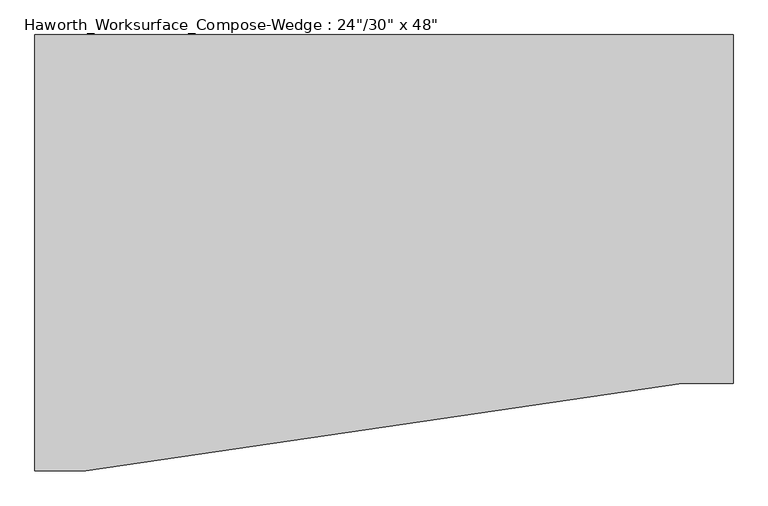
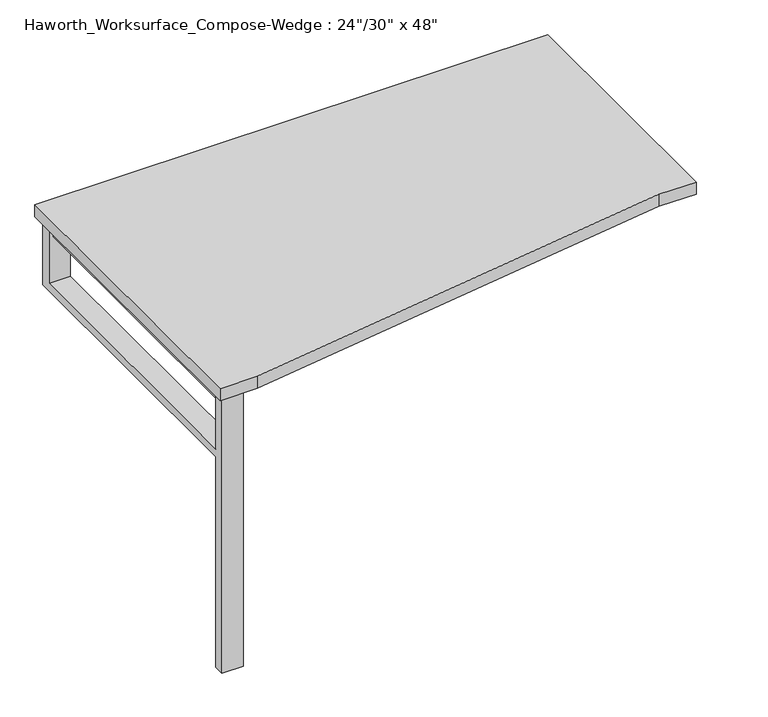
"""IFC4 building model written with IfcOpenShell, lengths in millimetres: furniture geometry."""

from ifc_helpers import new_model, si_unit, frame, origin, place, context, project, spatial, polyline, outline, extrude, source, transform, mapped, element, save


def furniture_72de7cf3(model_context):
    return source(origin(), model_context, "Body", "SweptSolid", [
        extrude(outline(polyline([(609.6, 381.0), (609.6, -228.6), (520.7, -228.6), (-520.7, -381.0), (-609.6, -381.0), (-609.6, 381.0), (609.6, 381.0)])), frame((0.0, 0.0, 706.4375), z_axis=(0.0, 0.0, 1.0), x_axis=(1.0, 0.0, 0.0)), (0.0, 0.0, 1.0), 30.1625),
        extrude(outline(polyline([(-549.275, 355.6), (-549.275, -330.2), (-581.025, -330.2), (-581.025, 355.6), (-549.275, 355.6)])), frame((0.0, 0.0, 661.9875), z_axis=(0.0, 0.0, 1.0), x_axis=(1.0, 0.0, 0.0)), (0.0, 0.0, 1.0), 44.45),
        extrude(outline(polyline([(-330.2, 528.6375), (-330.2, 0.0), (-355.6, 0.0), (-355.6, 706.4375), (-330.2, 706.4375), (-330.2, 547.6875), (355.6, 547.6875), (355.6, 706.4375), (381.0, 706.4375), (381.0, 528.6375), (-330.2, 528.6375)])), frame((-590.55, 0.0, 0.0), z_axis=(1.0, 0.0, 0.0), x_axis=(0.0, 1.0, 0.0)), (0.0, 0.0, 1.0), 50.8),
    ])


if __name__ == "__main__":
    model = new_model("IFC4")
    model_context = context("Model", 3, world=origin())
    ifc_project = project(units=[si_unit("LENGTHUNIT", "METRE", prefix="MILLI")], contexts=[model_context])
    site = spatial("IfcSite", under=ifc_project)
    building = spatial("IfcBuilding", under=site)
    placement = place(None, origin())
    furniture_shape = furniture_72de7cf3(model_context)
    element("IfcFurniture", 1, ObjectType="Haworth_Worksurface_Compose-Wedge : 24\"/30\" x 48\"", at=placement, inside=building, context=model_context, shape_type="MappedRepresentation", body=[
        mapped(furniture_shape, transform((0.0, 0.0, 0.0), x_axis=(1.0, 0.0, 0.0), y_axis=(0.0, 1.0, 0.0), z_axis=(0.0, 0.0, 1.0))),
    ])
    save(model, "model.ifc")
